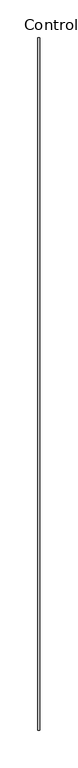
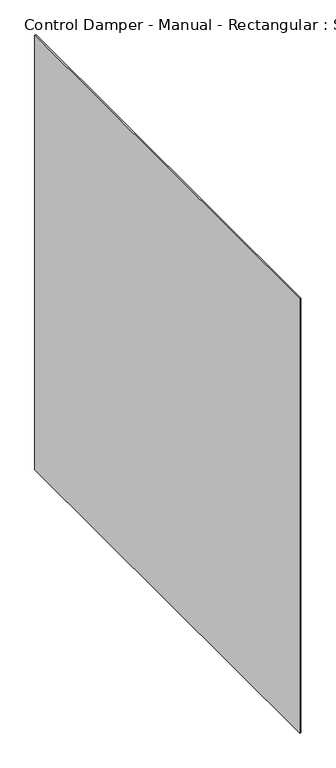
"""IFC4 building model written with IfcOpenShell, lengths in millimetres: damper geometry, Control Damper - Manual - Rectangular : Standard."""

from ifc_helpers import new_model, si_unit, frame, origin, place, context, project, spatial, polyline, outline, extrude, source, transform, mapped, element, save


def control_damper_manual_rectangular_standard_33db29d3(model_context):
    return source(origin(), model_context, "Body", "SweptSolid", [
        extrude(outline(polyline([(1.2898438, 457.2), (1.2898438, -457.2), (-1.2898438, -457.2), (-1.2898438, 457.2), (1.2898438, 457.2)])), frame((0.0, 0.0, -457.2), z_axis=(0.0, 0.0, 1.0), x_axis=(1.0, 0.0, 0.0)), (0.0, 0.0, 1.0), 914.4),
    ])


if __name__ == "__main__":
    model = new_model("IFC4")
    model_context = context("Model", 3, world=origin())
    ifc_project = project(units=[si_unit("LENGTHUNIT", "METRE", prefix="MILLI")], contexts=[model_context])
    site = spatial("IfcSite", under=ifc_project)
    building = spatial("IfcBuilding", under=site)
    placement = place(None, origin())
    control_damper_manual_rectangular_standard_shape = control_damper_manual_rectangular_standard_33db29d3(model_context)
    element("IfcDamper", 1, ObjectType="Control Damper - Manual - Rectangular : Standard", at=placement, inside=building, context=model_context, shape_type="MappedRepresentation", body=[
        mapped(control_damper_manual_rectangular_standard_shape, transform((0.0, 0.0, 0.0), x_axis=(1.0, 0.0, 0.0), y_axis=(0.0, 1.0, 0.0), z_axis=(0.0, 0.0, 1.0))),
    ])
    save(model, "model.ifc")
